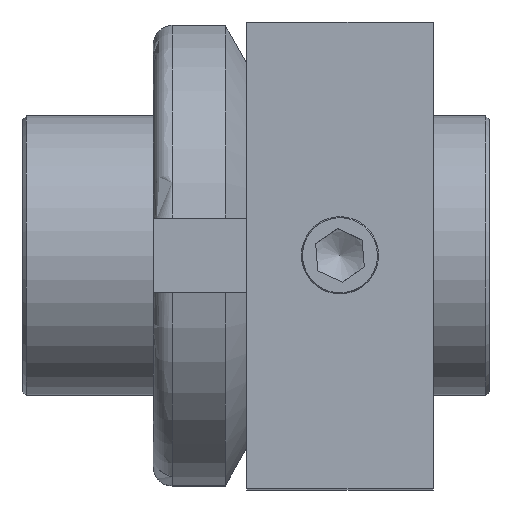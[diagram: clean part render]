
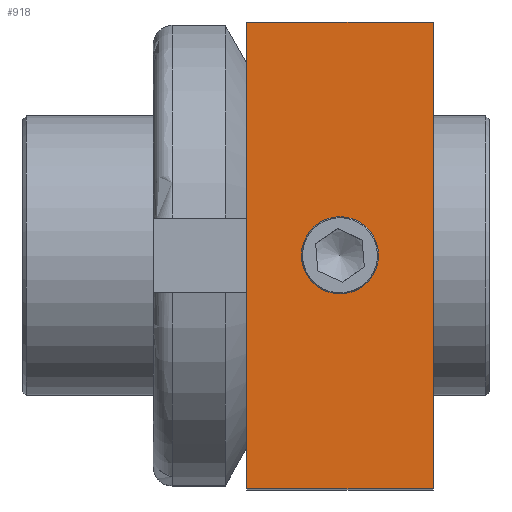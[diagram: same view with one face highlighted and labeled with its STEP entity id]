
A CAD part, top view. The second image highlights one B-rep face of the part: STEP entity #918.
In plain terms, the highlighted planar face has unit normal (0, 0, 1).
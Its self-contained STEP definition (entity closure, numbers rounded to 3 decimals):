
#65=LINE('',#1399,#121);
#69=LINE('',#1411,#125);
#73=LINE('',#1421,#129);
#75=LINE('',#1424,#131);
#121=VECTOR('',#1102,25.);
#125=VECTOR('',#1112,25.);
#129=VECTOR('',#1122,10.);
#131=VECTOR('',#1126,10.);
#181=PLANE('',#993);
#229=FACE_BOUND('',#360,.T.);
#230=FACE_BOUND('',#361,.T.);
#251=CIRCLE('',#977,2.067);
#360=EDGE_LOOP('',(#679));
#361=EDGE_LOOP('',(#680,#681,#682,#683));
#436=VERTEX_POINT('',#1383);
#441=VERTEX_POINT('',#1397);
#442=VERTEX_POINT('',#1398);
#446=VERTEX_POINT('',#1409);
#447=VERTEX_POINT('',#1410);
#526=EDGE_CURVE('',#436,#436,#251,.T.);
#531=EDGE_CURVE('',#441,#442,#65,.T.);
#536=EDGE_CURVE('',#446,#447,#69,.T.);
#541=EDGE_CURVE('',#447,#441,#73,.T.);
#543=EDGE_CURVE('',#442,#446,#75,.T.);
#679=ORIENTED_EDGE('',*,*,#526,.T.);
#680=ORIENTED_EDGE('',*,*,#536,.F.);
#681=ORIENTED_EDGE('',*,*,#543,.F.);
#682=ORIENTED_EDGE('',*,*,#531,.F.);
#683=ORIENTED_EDGE('',*,*,#541,.F.);
#918=ADVANCED_FACE('',(#229,#230),#181,.T.);
#977=AXIS2_PLACEMENT_3D('',#1384,#1084,#1085);
#993=AXIS2_PLACEMENT_3D('',#1426,#1128,#1129);
#1084=DIRECTION('center_axis',(0.,0.,-1.));
#1085=DIRECTION('ref_axis',(1.,0.,0.));
#1102=DIRECTION('',(0.,1.,0.));
#1112=DIRECTION('',(0.,-1.,0.));
#1122=DIRECTION('',(-1.,0.,0.));
#1126=DIRECTION('',(1.,0.,0.));
#1128=DIRECTION('center_axis',(0.,0.,1.));
#1129=DIRECTION('ref_axis',(1.,0.,0.));
#1383=CARTESIAN_POINT('',(2.067,0.,45.));
#1384=CARTESIAN_POINT('Origin',(0.,0.,45.));
#1397=CARTESIAN_POINT('',(-5.,-12.5,45.));
#1398=CARTESIAN_POINT('',(-5.,12.5,45.));
#1399=CARTESIAN_POINT('',(-5.,-12.5,45.));
#1409=CARTESIAN_POINT('',(5.,12.5,45.));
#1410=CARTESIAN_POINT('',(5.,-12.5,45.));
#1411=CARTESIAN_POINT('',(5.,12.5,45.));
#1421=CARTESIAN_POINT('',(5.,-12.5,45.));
#1424=CARTESIAN_POINT('',(-5.,12.5,45.));
#1426=CARTESIAN_POINT('Origin',(0.,0.,45.));
